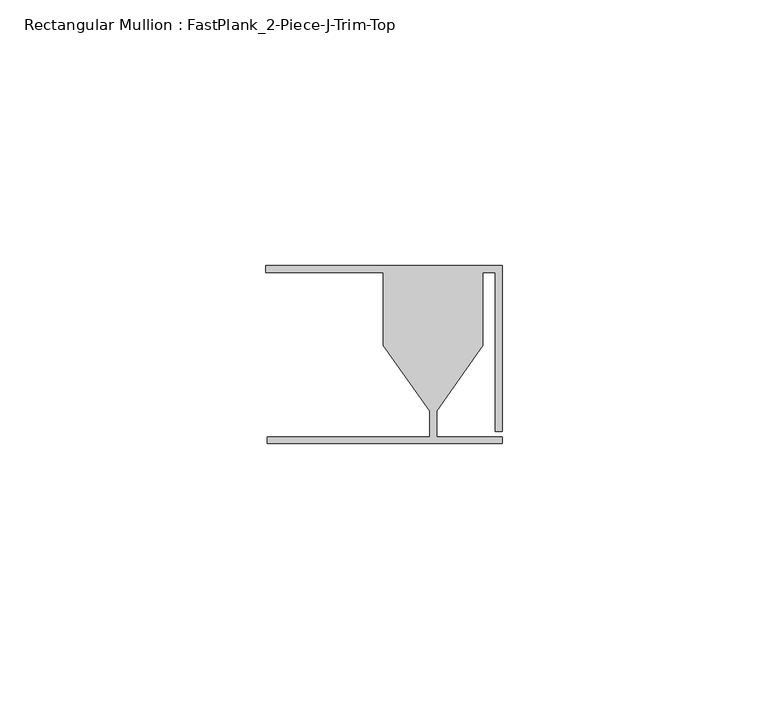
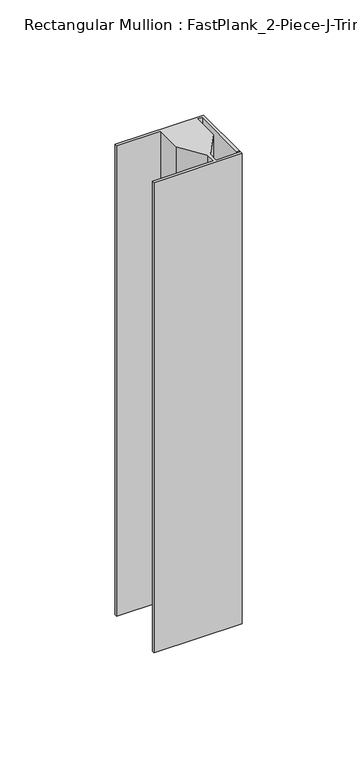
"""IFC4 building model written with IfcOpenShell, lengths in millimetres: member geometry, Rectangular Mullion : FastPlank_2-Piece-J-Trim-Top."""

from ifc_helpers import new_model, si_unit, frame, origin, place, context, project, spatial, polyline, outline, extrude, source, transform, mapped, element, save


def rectangular_mullion_fastplank_2_piece_j_trim_top_99cfb705(model_context):
    return source(origin(), model_context, "Body", "SweptSolid", [
        extrude(outline(polyline([(0.0, -11.8625052), (-44.2023711, -11.8625052), (-44.2023711, -10.5618154), (-13.6176438, -10.5618154), (-13.6176438, -5.7038113), (-22.3299553, 6.6543757), (-22.3299553, 20.3381228), (-44.4475015, 20.3381228), (-44.4475015, 21.6381202), (0.0, 21.6381202), (0.0, -9.5619969), (-1.2999974, -9.5619969), (-1.2999974, 20.3381228), (-3.6053348, 20.3381228), (-3.6053348, 6.6543757), (-12.3176464, -5.7038113), (-12.3176464, -10.5618154), (0.0, -10.5618154), (0.0, -11.8625052)])), frame((0.0, 0.0, -249.4207956), z_axis=(0.0, 0.0, 1.0), x_axis=(1.0, 0.0, 0.0)), (0.0, 0.0, 1.0), 249.4207956),
    ])


if __name__ == "__main__":
    model = new_model("IFC4")
    model_context = context("Model", 3, world=origin())
    ifc_project = project(units=[si_unit("LENGTHUNIT", "METRE", prefix="MILLI")], contexts=[model_context])
    site = spatial("IfcSite", under=ifc_project)
    building = spatial("IfcBuilding", under=site)
    placement = place(None, origin())
    rectangular_mullion_fastplank_2_piece_j_trim_top_shape = rectangular_mullion_fastplank_2_piece_j_trim_top_99cfb705(model_context)
    element("IfcMember", 1, ObjectType="Rectangular Mullion : FastPlank_2-Piece-J-Trim-Top", at=placement, inside=building, context=model_context, shape_type="MappedRepresentation", body=[
        mapped(rectangular_mullion_fastplank_2_piece_j_trim_top_shape, transform((0.0, 0.0, 0.0), x_axis=(1.0, 0.0, 0.0), y_axis=(0.0, 1.0, 0.0), z_axis=(0.0, 0.0, 1.0))),
    ])
    save(model, "model.ifc")
